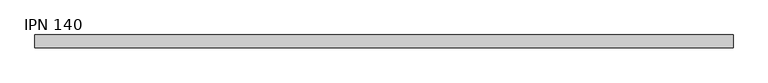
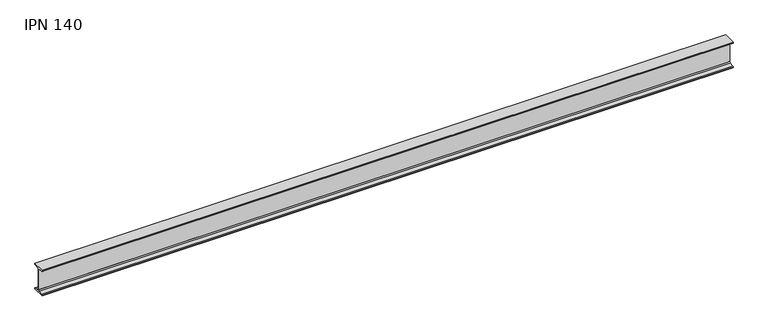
"""IFC4 building model written with IfcOpenShell, lengths in millimetres: beam geometry, IPN - Secciones en I con alas cónicas : IPN 140."""

import ifcopenshell
import ifcopenshell.guid

model = None  # the IFC model being written
_history = None  # IfcOwnerHistory: only IFC2X3 demands one
_inside = {}  # id of a spatial element -> (the spatial element, [elements in it])
_under = {}  # id of a project, library or spatial element -> (it, [spatial elements below it])
_declared = {}  # id of a project -> (the project, [libraries it declares])
_typed = {}  # id of a type object -> (the type object, [elements of that type])
_made_of = {}  # id of a material, layer set ... -> (it, [elements and type objects made of it])


def new_model(schema):
    """Start an empty IFC model of exactly this schema.

    Asked for "IFC4X3", IfcOpenShell would pick the latest addendum, in which some entities
    have other attributes; the version numbers below select the first issue.
    IFC2X3 requires an IfcOwnerHistory on every rooted entity: one is made here for all.
    """
    global model, _history
    if schema == "IFC4X3":
        model = ifcopenshell.file(schema_version=(4, 3, 0, 0))
    else:
        model = ifcopenshell.file(schema=schema)
    _inside.clear()
    _under.clear()
    _declared.clear()
    _typed.clear()
    _made_of.clear()
    _history = None
    if model.schema == "IFC2X3":
        org = make("IfcOrganization", Name="unknown")
        user = make(
            "IfcPersonAndOrganization",
            ThePerson=make("IfcPerson", FamilyName="unknown"),
            TheOrganization=org,
        )
        app = make(
            "IfcApplication",
            ApplicationDeveloper=org,
            Version="unknown",
            ApplicationFullName="unknown",
            ApplicationIdentifier="unknown",
        )
        _history = make(
            "IfcOwnerHistory",
            OwningUser=user,
            OwningApplication=app,
            ChangeAction="ADDED",
            CreationDate=0,
        )
    return model


def make(cls, **values):
    """One entity of the class cls with the attributes given. An attribute that is None is left unset."""
    return model.create_entity(
        cls, **{name: value for name, value in values.items() if value is not None}
    )


def rooted(cls, **values):
    """An entity with a GlobalId (a new one), such as an element, a storey or a relation."""
    return make(cls, GlobalId=ifcopenshell.guid.new(), OwnerHistory=_history, **values)


def si_unit(unit_type, name, prefix=None):
    """IfcSIUnit, for example si_unit("LENGTHUNIT", "METRE", prefix="MILLI")."""
    return make("IfcSIUnit", UnitType=unit_type, Prefix=prefix, Name=name)


def assignment(units):
    """IfcUnitAssignment: the units of a project."""
    return None if units is None else make("IfcUnitAssignment", Units=units)


def point(xyz):
    """IfcCartesianPoint."""
    return None if xyz is None else make("IfcCartesianPoint", Coordinates=xyz)


def direction(xyz):
    """IfcDirection."""
    return None if xyz is None else make("IfcDirection", DirectionRatios=xyz)


def frame(location, z_axis=None, x_axis=None):
    """IfcAxis2Placement3D, a coordinate frame: its origin and axes. An axis left out is left unset."""
    return make(
        "IfcAxis2Placement3D",
        Location=point(location),
        Axis=direction(z_axis),
        RefDirection=direction(x_axis),
    )


def frame_2d(location, x_axis=None):
    """IfcAxis2Placement2D, a coordinate frame in the plane: its origin and x axis."""
    return make(
        "IfcAxis2Placement2D", Location=point(location), RefDirection=direction(x_axis)
    )


def origin():
    """The frame at (0, 0, 0) with its axes left unset."""
    return frame((0.0, 0.0, 0.0))


def place(relative_to, where):
    """IfcLocalPlacement: puts the frame where relative to a parent placement (None: the world)."""
    return make(
        "IfcLocalPlacement", PlacementRelTo=relative_to, RelativePlacement=where
    )


def context(
    kind, dimensions, precision=None, world=None, true_north=None, identifier=None
):
    """IfcGeometricRepresentationContext, for example the 3D "Model" context."""
    return make(
        "IfcGeometricRepresentationContext",
        ContextIdentifier=identifier,
        ContextType=kind,
        CoordinateSpaceDimension=dimensions,
        Precision=precision,
        WorldCoordinateSystem=world,
        TrueNorth=true_north,
    )


def project(units=None, contexts=None):
    """IfcProject with its units and contexts."""
    return rooted(
        "IfcProject",
        Name="project",
        RepresentationContexts=contexts,
        UnitsInContext=assignment(units),
    )


def spatial(cls, under=None, at=None, **own):
    """A site, building, storey or space (cls), placed at a placement, below another one or the project."""
    s = rooted(cls, ObjectPlacement=at, **own)
    if under is not None:
        _under.setdefault(under.id(), (under, []))[1].append(s)
    return s


def polyline(points):
    """IfcPolyline through the points."""
    return make("IfcPolyline", Points=[point(p) for p in points])


def circle_curve(where, radius):
    """IfcCircle in the frame where."""
    return make("IfcCircle", Position=where, Radius=radius)


def trimmed(basis, trim1, trim2, sense, master):
    """IfcTrimmedCurve: the piece of a basis curve between two trims."""
    return make(
        "IfcTrimmedCurve",
        BasisCurve=basis,
        Trim1=trim1,
        Trim2=trim2,
        SenseAgreement=sense,
        MasterRepresentation=master,
    )


def segment(curve, same_sense, transition):
    """IfcCompositeCurveSegment."""
    return make(
        "IfcCompositeCurveSegment",
        Transition=transition,
        SameSense=same_sense,
        ParentCurve=curve,
    )


def composite_curve(segments, self_intersect=None):
    """IfcCompositeCurve: segments joined end to end."""
    return make("IfcCompositeCurve", Segments=segments, SelfIntersect=self_intersect)


def outline(outer, holes=None, kind="AREA"):
    """IfcArbitraryClosedProfileDef: a profile drawn as a closed curve; with holes, ...WithVoids."""
    if holes is None:
        return make("IfcArbitraryClosedProfileDef", ProfileType=kind, OuterCurve=outer)
    return make(
        "IfcArbitraryProfileDefWithVoids",
        ProfileType=kind,
        OuterCurve=outer,
        InnerCurves=holes,
    )


def extrude(swept, where, along, depth):
    """IfcExtrudedAreaSolid: the profile swept, set in the frame where, extruded along a direction by depth."""
    return make(
        "IfcExtrudedAreaSolid",
        SweptArea=swept,
        Position=where,
        ExtrudedDirection=direction(along),
        Depth=depth,
    )


def shape(context_of_items, identifier, shape_type, items):
    """IfcShapeRepresentation: the items that make up one representation, for example the "Body"."""
    return make(
        "IfcShapeRepresentation",
        ContextOfItems=context_of_items,
        RepresentationIdentifier=identifier,
        RepresentationType=shape_type,
        Items=items,
    )


def source(mapping_origin, context_of_items, identifier, shape_type, items):
    """IfcRepresentationMap: a shape defined once, which mapped items show again and again."""
    return make(
        "IfcRepresentationMap",
        MappingOrigin=mapping_origin,
        MappedRepresentation=shape(context_of_items, identifier, shape_type, items),
    )


def transform(
    local_origin,
    x_axis=None,
    y_axis=None,
    z_axis=None,
    scale=None,
    scale2=None,
    scale3=None,
    uniform=True,
):
    """IfcCartesianTransformationOperator3D, or its non-uniform kind. x_axis, y_axis, z_axis: its Axis1, 2, 3."""
    if uniform:
        return make(
            "IfcCartesianTransformationOperator3D",
            Axis1=direction(x_axis),
            Axis2=direction(y_axis),
            LocalOrigin=point(local_origin),
            Scale=scale,
            Axis3=direction(z_axis),
        )
    return make(
        "IfcCartesianTransformationOperator3DnonUniform",
        Axis1=direction(x_axis),
        Axis2=direction(y_axis),
        LocalOrigin=point(local_origin),
        Scale=scale,
        Axis3=direction(z_axis),
        Scale2=scale2,
        Scale3=scale3,
    )


def mapped(mapping_source, mapping_target):
    """IfcMappedItem: shows the shape of a source again, moved by a transform."""
    return make(
        "IfcMappedItem", MappingSource=mapping_source, MappingTarget=mapping_target
    )


def made_of(thing, what):
    """Note that an element or type object is made of a material, layer set ...; save() writes the relation."""
    if what is not None:
        _made_of.setdefault(what.id(), (what, []))[1].append(thing)
    return thing


def element(
    cls,
    number,
    at=None,
    inside=None,
    cuts=None,
    type_object=None,
    material=None,
    context=None,
    identifier="Body",
    shape_type=None,
    held_by="IfcProductDefinitionShape",
    body=None,
    shapes=None,
    **own,
):
    """One element of the class cls, such as IfcWall. Its Tag is "e" and its number.

    at: its placement. inside: the storey or other place that contains it. cuts: it is an
    opening in that element (IfcRelVoidsElement). A single representation is given by context,
    identifier, shape_type and body (its items); several are given by shapes. held_by: the class
    of the entity that holds the representations. save() writes the other relations.
    """
    e = rooted(cls, Tag="e%d" % number, ObjectPlacement=at, **own)
    if body is not None:
        shapes = [shape(context, identifier, shape_type, body)]
    if shapes is not None:
        e.Representation = make(held_by, Representations=shapes)
    if inside is not None:
        _inside.setdefault(inside.id(), (inside, []))[1].append(e)
    if cuts is not None:
        rooted(
            "IfcRelVoidsElement", RelatingBuildingElement=cuts, RelatedOpeningElement=e
        )
    if type_object is not None:
        _typed.setdefault(type_object.id(), (type_object, []))[1].append(e)
    return made_of(e, material)


def aggregate(whole, parts):
    """IfcRelAggregates: a whole, such as a stair, and the parts it consists of."""
    return rooted("IfcRelAggregates", RelatingObject=whole, RelatedObjects=parts)


def save(model, path):
    """Write the relations noted so far, then the file.

    IfcRelAggregates (storeys below a building ...), IfcRelContainedInSpatialStructure (elements
    in a storey), IfcRelDefinesByType, IfcRelAssociatesMaterial and IfcRelDeclares: one each for
    every whole, place, type object, material and project.
    """
    for whole, parts in _under.values():
        aggregate(whole, parts)
    for where, things in _inside.values():
        rooted(
            "IfcRelContainedInSpatialStructure",
            RelatedElements=things,
            RelatingStructure=where,
        )
    for kind, things in _typed.values():
        rooted("IfcRelDefinesByType", RelatedObjects=things, RelatingType=kind)
    for what, things in _made_of.values():
        rooted("IfcRelAssociatesMaterial", RelatedObjects=things, RelatingMaterial=what)
    for by, libraries in _declared.values():
        rooted("IfcRelDeclares", RelatingContext=by, RelatedDefinitions=libraries)
    model.write(path)


def ipn_140_dd2e7f60(model_context):
    return source(origin(), model_context, "Body", "SweptSolid", [
        extrude(outline(composite_curve([segment(polyline([(33.0, 70.0), (33.0, 66.6671583)]), True, "CONTINUOUS"), segment(trimmed(circle_curve(frame_2d((29.6, 66.6671583)), 3.4), [point((33.0, 66.6671583))], [point((30.0714027, 63.2999964))], False, "CARTESIAN"), True, "CONTINUOUS"), segment(polyline([(30.0714027, 63.2999964), (7.7597073, 60.176359)]), True, "CONTINUOUS"), segment(trimmed(circle_curve(frame_2d((8.55, 54.5314111)), 5.7), [point((7.7597073, 60.176359))], [point((2.85, 54.5314111))], True, "CARTESIAN"), True, "CONTINUOUS"), segment(polyline([(2.85, 54.5314111), (2.85, -54.5314111)]), True, "CONTINUOUS"), segment(trimmed(circle_curve(frame_2d((8.55, -54.5314111)), 5.7), [point((2.85, -54.5314111))], [point((7.7597073, -60.176359))], True, "CARTESIAN"), True, "CONTINUOUS"), segment(polyline([(7.7597073, -60.176359), (30.0714027, -63.2999964)]), True, "CONTINUOUS"), segment(trimmed(circle_curve(frame_2d((29.6, -66.6671583)), 3.4), [point((30.0714027, -63.2999964))], [point((33.0, -66.6671583))], False, "CARTESIAN"), True, "CONTINUOUS"), segment(polyline([(33.0, -66.6671583), (33.0, -70.0), (-33.0, -70.0), (-33.0, -66.6671583)]), True, "CONTINUOUS"), segment(trimmed(circle_curve(frame_2d((-29.6, -66.6671583)), 3.4), [point((-33.0, -66.6671583))], [point((-30.0714027, -63.2999964))], False, "CARTESIAN"), True, "CONTINUOUS"), segment(polyline([(-30.0714027, -63.2999964), (-7.7597073, -60.176359)]), True, "CONTINUOUS"), segment(trimmed(circle_curve(frame_2d((-8.55, -54.5314111)), 5.7), [point((-7.7597073, -60.176359))], [point((-2.85, -54.5314111))], True, "CARTESIAN"), True, "CONTINUOUS"), segment(polyline([(-2.85, -54.5314111), (-2.85, 54.5314111)]), True, "CONTINUOUS"), segment(trimmed(circle_curve(frame_2d((-8.55, 54.5314111)), 5.7), [point((-2.85, 54.5314111))], [point((-7.7597073, 60.176359))], True, "CARTESIAN"), True, "CONTINUOUS"), segment(polyline([(-7.7597073, 60.176359), (-30.0714027, 63.2999964)]), True, "CONTINUOUS"), segment(trimmed(circle_curve(frame_2d((-29.6, 66.6671583)), 3.4), [point((-30.0714027, 63.2999964))], [point((-33.0, 66.6671583))], False, "CARTESIAN"), True, "CONTINUOUS"), segment(polyline([(-33.0, 66.6671583), (-33.0, 70.0), (33.0, 70.0)]), True, "CONTINUOUS")], self_intersect=False)), frame((-1851.5, 0.0, 0.0), z_axis=(1.0, 0.0, 0.0), x_axis=(0.0, 1.0, 0.0)), (0.0, 0.0, 1.0), 3591.0),
    ])


if __name__ == "__main__":
    model = new_model("IFC4")
    model_context = context("Model", 3, world=origin())
    ifc_project = project(units=[si_unit("LENGTHUNIT", "METRE", prefix="MILLI")], contexts=[model_context])
    site = spatial("IfcSite", under=ifc_project)
    building = spatial("IfcBuilding", under=site)
    placement = place(None, origin())
    ipn_140_shape = ipn_140_dd2e7f60(model_context)
    element("IfcBeam", 1, ObjectType="IPN - Secciones en I con alas cónicas : IPN 140", at=placement, inside=building, context=model_context, shape_type="MappedRepresentation", body=[
        mapped(ipn_140_shape, transform((0.0, 0.0, 0.0), x_axis=(1.0, 0.0, 0.0), y_axis=(0.0, 1.0, 0.0), z_axis=(0.0, 0.0, 1.0))),
    ])
    save(model, "model.ifc")
